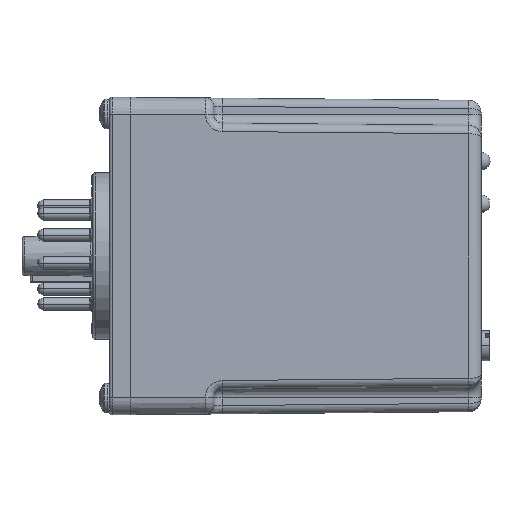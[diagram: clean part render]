
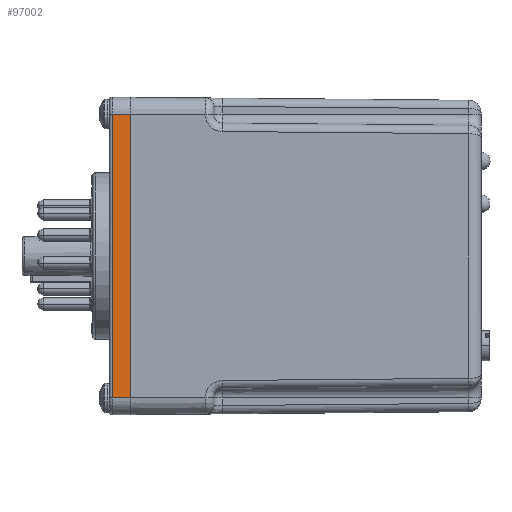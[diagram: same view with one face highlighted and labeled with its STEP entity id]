
A CAD part, left-side view. The second image highlights one B-rep face of the part: STEP entity #97002.
In plain terms, the highlighted planar face has unit normal (-1, 0, 0).
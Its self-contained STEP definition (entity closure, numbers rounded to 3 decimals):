
#75119 = CYLINDRICAL_SURFACE('',#75120,0.508);
#75120 = AXIS2_PLACEMENT_3D('',#75121,#75122,#75123);
#75121 = CARTESIAN_POINT('',(-21.717,70.053,-30.163));
#75122 = DIRECTION('',(0.,0.,1.));
#75123 = DIRECTION('',(1.,0.,0.));
#75706 = PLANE('',#75707);
#75707 = AXIS2_PLACEMENT_3D('',#75708,#75709,#75710);
#75708 = CARTESIAN_POINT('',(-22.225,66.599,-30.163));
#75709 = DIRECTION('',(0.,1.,0.));
#75710 = DIRECTION('',(1.,0.,-0.));
#82195 = VERTEX_POINT('',#82196);
#82196 = CARTESIAN_POINT('',(-22.225,66.599,26.988));
#82215 = CYLINDRICAL_SURFACE('',#82216,3.175);
#82216 = AXIS2_PLACEMENT_3D('',#82217,#82218,#82219);
#82217 = CARTESIAN_POINT('',(-19.05,66.599,26.988));
#82218 = DIRECTION('',(0.,1.,0.));
#82219 = DIRECTION('',(0.,0.,-1.));
#82227 = EDGE_CURVE('',#82228,#82195,#82230,.T.);
#82228 = VERTEX_POINT('',#82229);
#82229 = CARTESIAN_POINT('',(-22.225,66.599,-26.988));
#82230 = SURFACE_CURVE('',#82231,(#82235,#82242),.PCURVE_S1.);
#82231 = LINE('',#82232,#82233);
#82232 = CARTESIAN_POINT('',(-22.225,66.599,-30.163));
#82233 = VECTOR('',#82234,1.);
#82234 = DIRECTION('',(0.,-0.,1.));
#82235 = PCURVE('',#75706,#82236);
#82236 = DEFINITIONAL_REPRESENTATION('',(#82237),#82241);
#82237 = LINE('',#82238,#82239);
#82238 = CARTESIAN_POINT('',(0.,0.));
#82239 = VECTOR('',#82240,1.);
#82240 = DIRECTION('',(0.,-1.));
#82241 = ( GEOMETRIC_REPRESENTATION_CONTEXT(2) 
PARAMETRIC_REPRESENTATION_CONTEXT() REPRESENTATION_CONTEXT('2D SPACE',''
  ) );
#82242 = PCURVE('',#82243,#82248);
#82243 = PLANE('',#82244);
#82244 = AXIS2_PLACEMENT_3D('',#82245,#82246,#82247);
#82245 = CARTESIAN_POINT('',(-22.225,66.599,-30.163));
#82246 = DIRECTION('',(1.,0.,0.));
#82247 = DIRECTION('',(0.,0.,-1.));
#82248 = DEFINITIONAL_REPRESENTATION('',(#82249),#82253);
#82249 = LINE('',#82250,#82251);
#82250 = CARTESIAN_POINT('',(0.,0.));
#82251 = VECTOR('',#82252,1.);
#82252 = DIRECTION('',(-1.,0.));
#82253 = ( GEOMETRIC_REPRESENTATION_CONTEXT(2) 
PARAMETRIC_REPRESENTATION_CONTEXT() REPRESENTATION_CONTEXT('2D SPACE',''
  ) );
#82274 = CYLINDRICAL_SURFACE('',#82275,3.175);
#82275 = AXIS2_PLACEMENT_3D('',#82276,#82277,#82278);
#82276 = CARTESIAN_POINT('',(-19.05,70.561,-26.988));
#82277 = DIRECTION('',(0.,-1.,0.));
#82278 = DIRECTION('',(0.,0.,1.));
#97002 = ADVANCED_FACE('',(#97003),#82243,.F.);
#97003 = FACE_BOUND('',#97004,.T.);
#97004 = EDGE_LOOP('',(#97005,#97028,#97051,#97072));
#97005 = ORIENTED_EDGE('',*,*,#97006,.T.);
#97006 = EDGE_CURVE('',#82195,#97007,#97009,.T.);
#97007 = VERTEX_POINT('',#97008);
#97008 = CARTESIAN_POINT('',(-22.225,70.053,26.988));
#97009 = SURFACE_CURVE('',#97010,(#97014,#97021),.PCURVE_S1.);
#97010 = LINE('',#97011,#97012);
#97011 = CARTESIAN_POINT('',(-22.225,66.599,26.988));
#97012 = VECTOR('',#97013,1.);
#97013 = DIRECTION('',(0.,1.,0.));
#97014 = PCURVE('',#82243,#97015);
#97015 = DEFINITIONAL_REPRESENTATION('',(#97016),#97020);
#97016 = LINE('',#97017,#97018);
#97017 = CARTESIAN_POINT('',(-57.15,0.));
#97018 = VECTOR('',#97019,1.);
#97019 = DIRECTION('',(0.,1.));
#97020 = ( GEOMETRIC_REPRESENTATION_CONTEXT(2) 
PARAMETRIC_REPRESENTATION_CONTEXT() REPRESENTATION_CONTEXT('2D SPACE',''
  ) );
#97021 = PCURVE('',#82215,#97022);
#97022 = DEFINITIONAL_REPRESENTATION('',(#97023),#97027);
#97023 = LINE('',#97024,#97025);
#97024 = CARTESIAN_POINT('',(1.571,0.));
#97025 = VECTOR('',#97026,1.);
#97026 = DIRECTION('',(0.,1.));
#97027 = ( GEOMETRIC_REPRESENTATION_CONTEXT(2) 
PARAMETRIC_REPRESENTATION_CONTEXT() REPRESENTATION_CONTEXT('2D SPACE',''
  ) );
#97028 = ORIENTED_EDGE('',*,*,#97029,.T.);
#97029 = EDGE_CURVE('',#97007,#97030,#97032,.T.);
#97030 = VERTEX_POINT('',#97031);
#97031 = CARTESIAN_POINT('',(-22.225,70.053,-26.988));
#97032 = SURFACE_CURVE('',#97033,(#97037,#97044),.PCURVE_S1.);
#97033 = LINE('',#97034,#97035);
#97034 = CARTESIAN_POINT('',(-22.225,70.053,-30.163));
#97035 = VECTOR('',#97036,1.);
#97036 = DIRECTION('',(0.,0.,-1.));
#97037 = PCURVE('',#82243,#97038);
#97038 = DEFINITIONAL_REPRESENTATION('',(#97039),#97043);
#97039 = LINE('',#97040,#97041);
#97040 = CARTESIAN_POINT('',(0.,3.454));
#97041 = VECTOR('',#97042,1.);
#97042 = DIRECTION('',(1.,0.));
#97043 = ( GEOMETRIC_REPRESENTATION_CONTEXT(2) 
PARAMETRIC_REPRESENTATION_CONTEXT() REPRESENTATION_CONTEXT('2D SPACE',''
  ) );
#97044 = PCURVE('',#75119,#97045);
#97045 = DEFINITIONAL_REPRESENTATION('',(#97046),#97050);
#97046 = LINE('',#97047,#97048);
#97047 = CARTESIAN_POINT('',(3.142,0.));
#97048 = VECTOR('',#97049,1.);
#97049 = DIRECTION('',(0.,-1.));
#97050 = ( GEOMETRIC_REPRESENTATION_CONTEXT(2) 
PARAMETRIC_REPRESENTATION_CONTEXT() REPRESENTATION_CONTEXT('2D SPACE',''
  ) );
#97051 = ORIENTED_EDGE('',*,*,#97052,.T.);
#97052 = EDGE_CURVE('',#97030,#82228,#97053,.T.);
#97053 = SURFACE_CURVE('',#97054,(#97058,#97065),.PCURVE_S1.);
#97054 = LINE('',#97055,#97056);
#97055 = CARTESIAN_POINT('',(-22.225,66.599,-26.988));
#97056 = VECTOR('',#97057,1.);
#97057 = DIRECTION('',(0.,-1.,0.));
#97058 = PCURVE('',#82243,#97059);
#97059 = DEFINITIONAL_REPRESENTATION('',(#97060),#97064);
#97060 = LINE('',#97061,#97062);
#97061 = CARTESIAN_POINT('',(-3.175,0.));
#97062 = VECTOR('',#97063,1.);
#97063 = DIRECTION('',(0.,-1.));
#97064 = ( GEOMETRIC_REPRESENTATION_CONTEXT(2) 
PARAMETRIC_REPRESENTATION_CONTEXT() REPRESENTATION_CONTEXT('2D SPACE',''
  ) );
#97065 = PCURVE('',#82274,#97066);
#97066 = DEFINITIONAL_REPRESENTATION('',(#97067),#97071);
#97067 = LINE('',#97068,#97069);
#97068 = CARTESIAN_POINT('',(1.571,3.962));
#97069 = VECTOR('',#97070,1.);
#97070 = DIRECTION('',(0.,1.));
#97071 = ( GEOMETRIC_REPRESENTATION_CONTEXT(2) 
PARAMETRIC_REPRESENTATION_CONTEXT() REPRESENTATION_CONTEXT('2D SPACE',''
  ) );
#97072 = ORIENTED_EDGE('',*,*,#82227,.T.);
